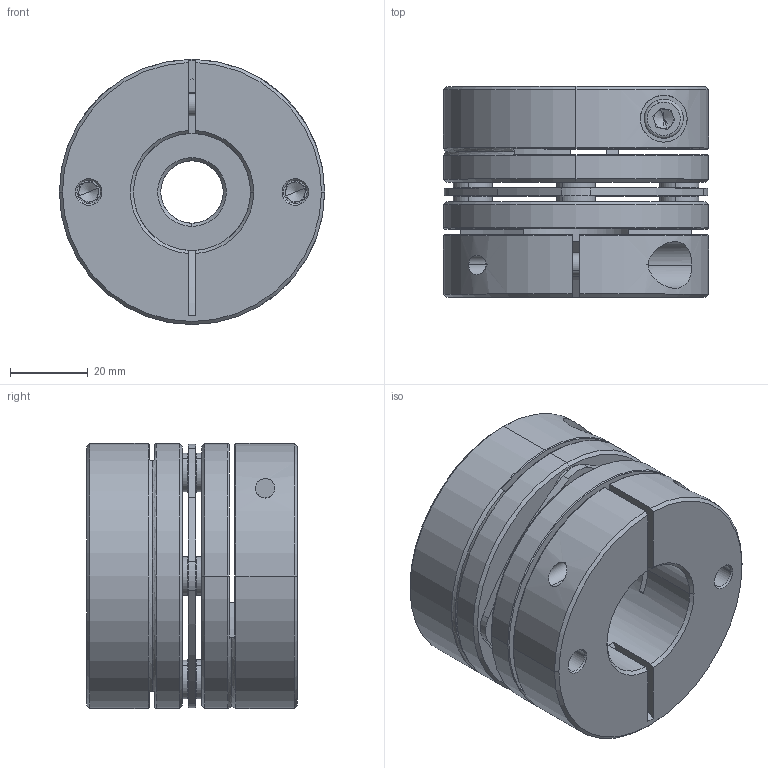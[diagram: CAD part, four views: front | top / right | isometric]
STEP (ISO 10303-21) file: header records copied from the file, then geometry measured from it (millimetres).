
FILE_DESCRIPTION (( 'STEP AP203' ), '1' );
FILE_NAME ('LD1-D68-16-30.STEP', '2021-10-26T07:50:10', ( '' ), ( '' ), 'SwSTEP 2.0', 'SolidWorks 2018', '' );
FILE_SCHEMA (( 'CONFIG_CONTROL_DESIGN' ));
Length unit declared in the file: millimetre
Products named in the file (2): 錨璃101^LD1-D68; LD1-D68-16-30
Assembly tree (1 placements, depth 2):
  LD1-D68-16-30
    錨璃101^LD1-D68
Bounding box: 68 x 54 x 68 mm (x, y, z)
Volume: 144611.7 mm3; surface area: 46202.8 mm2
Topology: 1 solids, 15 shells, 443 faces, 1063 edges, 652 vertices
Faces by surface type: cylinder 161, plane 138, cone 122, torus 22
Entity records: 13477 total; most frequent: CARTESIAN_POINT 2615, DIRECTION 2435, ORIENTED_EDGE 2094, EDGE_CURVE 1047, AXIS2_PLACEMENT_3D 988, VERTEX_POINT 652, CIRCLE 541, EDGE_LOOP 523
